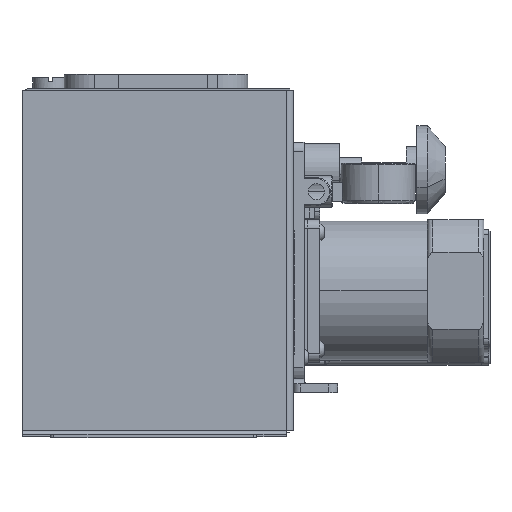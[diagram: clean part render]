
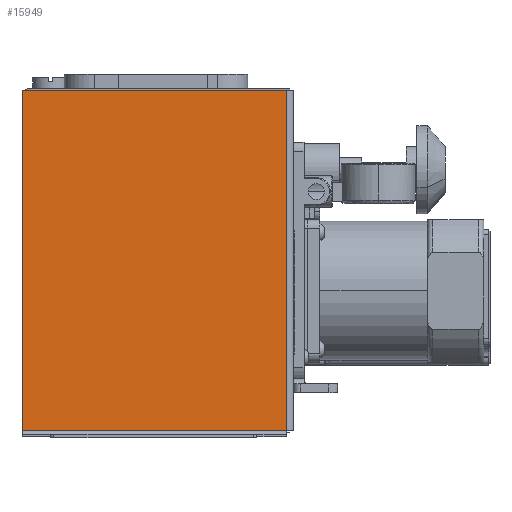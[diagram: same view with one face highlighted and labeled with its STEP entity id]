
A CAD part, left-side view. The second image highlights one B-rep face of the part: STEP entity #15949.
In plain terms, the highlighted planar face has unit normal (-1, 0, 0).
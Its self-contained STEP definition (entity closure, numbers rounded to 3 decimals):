
#883 = VECTOR ( 'NONE', #5724, 1000. ) ;
#945 = EDGE_LOOP ( 'NONE', ( #3079, #19763, #5205, #8300 ) ) ;
#2097 = DIRECTION ( 'NONE',  ( -1., 0., 0. ) ) ;
#2274 = AXIS2_PLACEMENT_3D ( 'NONE', #10547, #2097, #27619 ) ;
#2503 = VERTEX_POINT ( 'NONE', #27724 ) ;
#3008 = CARTESIAN_POINT ( 'NONE',  ( -12.663, 240.093, 191.739 ) ) ;
#3079 = ORIENTED_EDGE ( 'NONE', *, *, #26312, .F. ) ;
#3854 = LINE ( 'NONE', #20846, #883 ) ;
#4300 = DIRECTION ( 'NONE',  ( 0., 0., 1. ) ) ;
#5205 = ORIENTED_EDGE ( 'NONE', *, *, #21930, .F. ) ;
#5597 = VECTOR ( 'NONE', #11943, 1000. ) ;
#5605 = CARTESIAN_POINT ( 'NONE',  ( -12.663, 240.093, 191.739 ) ) ;
#5724 = DIRECTION ( 'NONE',  ( 0., 0., 1. ) ) ;
#7909 = CARTESIAN_POINT ( 'NONE',  ( -12.663, 88.093, 384.739 ) ) ;
#8063 = CARTESIAN_POINT ( 'NONE',  ( -12.663, 90.093, 384.739 ) ) ;
#8300 = ORIENTED_EDGE ( 'NONE', *, *, #8782, .F. ) ;
#8462 = CARTESIAN_POINT ( 'NONE',  ( -12.663, 240.093, 384.739 ) ) ;
#8782 = EDGE_CURVE ( 'NONE', #25346, #9854, #13145, .T. ) ;
#9854 = VERTEX_POINT ( 'NONE', #19051 ) ;
#10547 = CARTESIAN_POINT ( 'NONE',  ( -12.663, 164.093, 192.739 ) ) ;
#11943 = DIRECTION ( 'NONE',  ( 0., -1., 0. ) ) ;
#12803 = VECTOR ( 'NONE', #4300, 1000. ) ;
#13145 = LINE ( 'NONE', #8462, #12803 ) ;
#14191 = FACE_OUTER_BOUND ( 'NONE', #945, .T. ) ;
#15949 = ADVANCED_FACE ( 'NONE', ( #14191 ), #25480, .T. ) ;
#16630 = LINE ( 'NONE', #5605, #27366 ) ;
#17638 = LINE ( 'NONE', #7909, #5597 ) ;
#19051 = CARTESIAN_POINT ( 'NONE',  ( -12.663, 240.093, 384.739 ) ) ;
#19740 = EDGE_CURVE ( 'NONE', #2503, #20164, #3854, .T. ) ;
#19763 = ORIENTED_EDGE ( 'NONE', *, *, #19740, .T. ) ;
#20164 = VERTEX_POINT ( 'NONE', #8063 ) ;
#20720 = DIRECTION ( 'NONE',  ( 0., 1., 0. ) ) ;
#20846 = CARTESIAN_POINT ( 'NONE',  ( -12.663, 90.093, 192.739 ) ) ;
#21930 = EDGE_CURVE ( 'NONE', #9854, #20164, #17638, .T. ) ;
#25346 = VERTEX_POINT ( 'NONE', #3008 ) ;
#25480 = PLANE ( 'NONE',  #2274 ) ;
#26312 = EDGE_CURVE ( 'NONE', #2503, #25346, #16630, .T. ) ;
#27366 = VECTOR ( 'NONE', #20720, 1000. ) ;
#27619 = DIRECTION ( 'NONE',  ( 0., -1., 0. ) ) ;
#27724 = CARTESIAN_POINT ( 'NONE',  ( -12.663, 90.093, 191.739 ) ) ;
